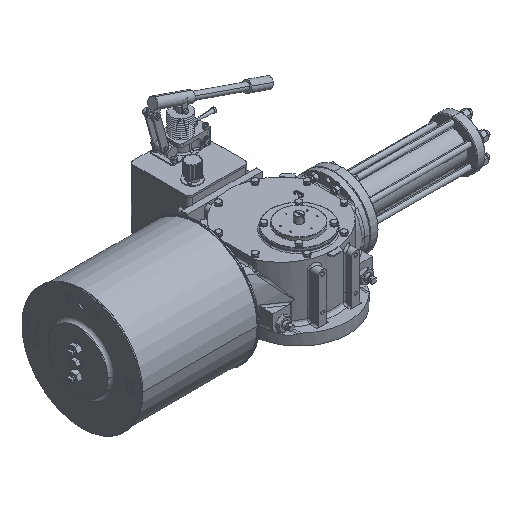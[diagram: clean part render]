
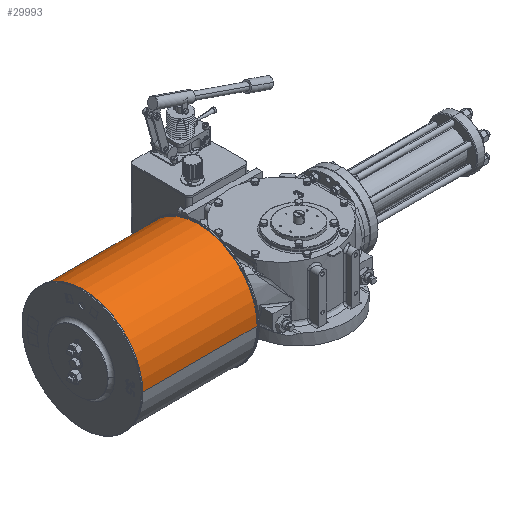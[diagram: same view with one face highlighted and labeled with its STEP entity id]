
A CAD part, isometric view. The second image highlights one B-rep face of the part: STEP entity #29993.
In plain terms, the highlighted cylindrical face has radius 177.8 mm (diameter 355.6 mm), a partial arc.
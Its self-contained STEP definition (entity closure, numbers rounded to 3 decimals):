
#2366 = VECTOR ( 'NONE', #28488, 1000. ) ;
#4821 = CIRCLE ( 'NONE', #70001, 177.8 ) ;
#8059 = LINE ( 'NONE', #20886, #2366 ) ;
#13736 = CARTESIAN_POINT ( 'NONE',  ( -562., 213.3, 74.5 ) ) ;
#13869 = CARTESIAN_POINT ( 'NONE',  ( -562., 213.3, 74.5 ) ) ;
#20886 = CARTESIAN_POINT ( 'NONE',  ( -562., -142.3, 74.5 ) ) ;
#23804 = ORIENTED_EDGE ( 'NONE', *, *, #34606, .T. ) ;
#24371 = CARTESIAN_POINT ( 'NONE',  ( -562., 35.5, 74.5 ) ) ;
#25108 = EDGE_CURVE ( 'NONE', #34055, #73870, #8059, .T. ) ;
#25846 = ORIENTED_EDGE ( 'NONE', *, *, #25108, .T. ) ;
#28488 = DIRECTION ( 'NONE',  ( 1., 0., 0. ) ) ;
#29993 = ADVANCED_FACE ( 'NONE', ( #82744 ), #40020, .T. ) ;
#30921 = CARTESIAN_POINT ( 'NONE',  ( -562., 35.5, 74.5 ) ) ;
#32753 = VERTEX_POINT ( 'NONE', #33131 ) ;
#32762 = CARTESIAN_POINT ( 'NONE',  ( -562., -142.3, 74.5 ) ) ;
#33131 = CARTESIAN_POINT ( 'NONE',  ( -215., 213.3, 74.5 ) ) ;
#34055 = VERTEX_POINT ( 'NONE', #32762 ) ;
#34606 = EDGE_CURVE ( 'NONE', #71775, #34055, #77286, .T. ) ;
#40020 = CYLINDRICAL_SURFACE ( 'NONE', #57874, 177.8 ) ;
#41208 = DIRECTION ( 'NONE',  ( -1., 0., 0. ) ) ;
#44654 = DIRECTION ( 'NONE',  ( 1., 0., 0. ) ) ;
#46162 = EDGE_CURVE ( 'NONE', #71775, #32753, #57391, .T. ) ;
#47295 = CARTESIAN_POINT ( 'NONE',  ( -215., -142.3, 74.5 ) ) ;
#54691 = DIRECTION ( 'NONE',  ( 1., 0., 0. ) ) ;
#54979 = CARTESIAN_POINT ( 'NONE',  ( -215., 35.5, 74.5 ) ) ;
#56647 = EDGE_LOOP ( 'NONE', ( #23804, #25846, #61847, #59853 ) ) ;
#57137 = VECTOR ( 'NONE', #92545, 1000. ) ;
#57391 = LINE ( 'NONE', #13736, #57137 ) ;
#57874 = AXIS2_PLACEMENT_3D ( 'NONE', #24371, #54691, #75160 ) ;
#59839 = DIRECTION ( 'NONE',  ( 0., 1., 0. ) ) ;
#59853 = ORIENTED_EDGE ( 'NONE', *, *, #46162, .F. ) ;
#61847 = ORIENTED_EDGE ( 'NONE', *, *, #77437, .T. ) ;
#70001 = AXIS2_PLACEMENT_3D ( 'NONE', #54979, #41208, #91999 ) ;
#71775 = VERTEX_POINT ( 'NONE', #13869 ) ;
#73870 = VERTEX_POINT ( 'NONE', #47295 ) ;
#75160 = DIRECTION ( 'NONE',  ( 0., 1., 0. ) ) ;
#77286 = CIRCLE ( 'NONE', #81843, 177.8 ) ;
#77437 = EDGE_CURVE ( 'NONE', #73870, #32753, #4821, .T. ) ;
#81843 = AXIS2_PLACEMENT_3D ( 'NONE', #30921, #44654, #59839 ) ;
#82744 = FACE_OUTER_BOUND ( 'NONE', #56647, .T. ) ;
#91999 = DIRECTION ( 'NONE',  ( 0., 1., 0. ) ) ;
#92545 = DIRECTION ( 'NONE',  ( 1., 0., 0. ) ) ;
